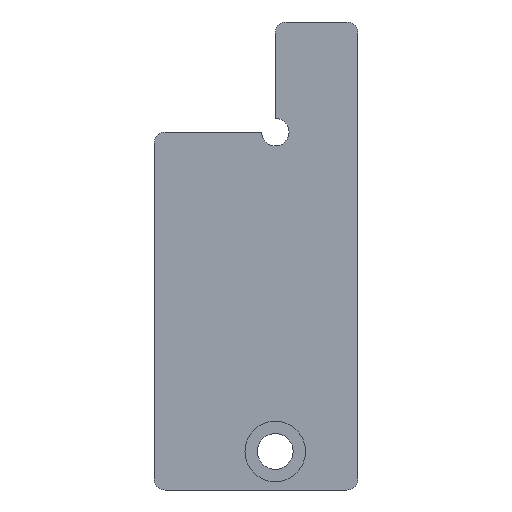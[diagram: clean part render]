
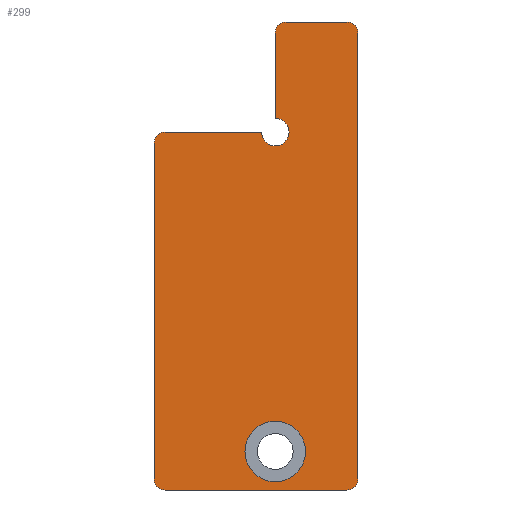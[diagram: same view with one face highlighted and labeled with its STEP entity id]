
A CAD part, front view. The second image highlights one B-rep face of the part: STEP entity #299.
In plain terms, the highlighted planar face has unit normal (0, -1, 0).
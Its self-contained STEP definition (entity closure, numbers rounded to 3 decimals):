
#19=LINE('',#486,#45);
#22=LINE('',#492,#48);
#23=LINE('',#496,#49);
#24=LINE('',#500,#50);
#25=LINE('',#504,#51);
#26=LINE('',#508,#52);
#45=VECTOR('',#395,10.);
#48=VECTOR('',#400,10.);
#49=VECTOR('',#403,10.);
#50=VECTOR('',#406,10.);
#51=VECTOR('',#409,10.);
#52=VECTOR('',#412,10.);
#76=FACE_BOUND('',#102,.T.);
#83=FACE_OUTER_BOUND('',#101,.T.);
#101=EDGE_LOOP('',(#219,#220,#221,#222,#223,#224,#225,#226,#227,#228,#229,
#230));
#102=EDGE_LOOP('',(#231));
#117=CIRCLE('',#338,5.5);
#120=CIRCLE('',#343,2.);
#121=CIRCLE('',#346,2.);
#122=CIRCLE('',#347,2.5);
#123=CIRCLE('',#348,2.);
#124=CIRCLE('',#349,2.);
#125=CIRCLE('',#350,2.);
#133=VERTEX_POINT('',#468);
#137=VERTEX_POINT('',#479);
#138=VERTEX_POINT('',#481);
#139=VERTEX_POINT('',#485);
#141=VERTEX_POINT('',#491);
#142=VERTEX_POINT('',#493);
#143=VERTEX_POINT('',#495);
#144=VERTEX_POINT('',#497);
#145=VERTEX_POINT('',#499);
#146=VERTEX_POINT('',#501);
#147=VERTEX_POINT('',#503);
#148=VERTEX_POINT('',#505);
#149=VERTEX_POINT('',#507);
#161=EDGE_CURVE('',#133,#133,#117,.T.);
#167=EDGE_CURVE('',#137,#138,#120,.T.);
#169=EDGE_CURVE('',#138,#139,#19,.T.);
#172=EDGE_CURVE('',#141,#137,#22,.T.);
#173=EDGE_CURVE('',#142,#141,#121,.T.);
#174=EDGE_CURVE('',#143,#142,#23,.T.);
#175=EDGE_CURVE('',#144,#143,#122,.T.);
#176=EDGE_CURVE('',#145,#144,#24,.T.);
#177=EDGE_CURVE('',#146,#145,#123,.T.);
#178=EDGE_CURVE('',#147,#146,#25,.T.);
#179=EDGE_CURVE('',#148,#147,#124,.T.);
#180=EDGE_CURVE('',#149,#148,#26,.T.);
#181=EDGE_CURVE('',#139,#149,#125,.T.);
#219=ORIENTED_EDGE('',*,*,#167,.F.);
#220=ORIENTED_EDGE('',*,*,#172,.F.);
#221=ORIENTED_EDGE('',*,*,#173,.F.);
#222=ORIENTED_EDGE('',*,*,#174,.F.);
#223=ORIENTED_EDGE('',*,*,#175,.F.);
#224=ORIENTED_EDGE('',*,*,#176,.F.);
#225=ORIENTED_EDGE('',*,*,#177,.F.);
#226=ORIENTED_EDGE('',*,*,#178,.F.);
#227=ORIENTED_EDGE('',*,*,#179,.F.);
#228=ORIENTED_EDGE('',*,*,#180,.F.);
#229=ORIENTED_EDGE('',*,*,#181,.F.);
#230=ORIENTED_EDGE('',*,*,#169,.F.);
#231=ORIENTED_EDGE('',*,*,#161,.T.);
#287=PLANE('',#345);
#299=ADVANCED_FACE('',(#83,#76),#287,.F.);
#338=AXIS2_PLACEMENT_3D('',#469,#377,#378);
#343=AXIS2_PLACEMENT_3D('',#482,#390,#391);
#345=AXIS2_PLACEMENT_3D('',#490,#398,#399);
#346=AXIS2_PLACEMENT_3D('',#494,#401,#402);
#347=AXIS2_PLACEMENT_3D('',#498,#404,#405);
#348=AXIS2_PLACEMENT_3D('',#502,#407,#408);
#349=AXIS2_PLACEMENT_3D('',#506,#410,#411);
#350=AXIS2_PLACEMENT_3D('',#509,#413,#414);
#377=DIRECTION('center_axis',(0.,1.,0.));
#378=DIRECTION('ref_axis',(1.,0.,0.));
#390=DIRECTION('center_axis',(0.,1.,0.));
#391=DIRECTION('ref_axis',(0.707,0.,0.707));
#395=DIRECTION('',(0.,0.,-1.));
#398=DIRECTION('center_axis',(0.,1.,0.));
#399=DIRECTION('ref_axis',(0.,0.,1.));
#400=DIRECTION('',(1.,0.,0.));
#401=DIRECTION('center_axis',(0.,1.,0.));
#402=DIRECTION('ref_axis',(-0.707,0.,0.707));
#403=DIRECTION('',(0.,0.,1.));
#404=DIRECTION('center_axis',(0.,-1.,0.));
#405=DIRECTION('ref_axis',(1.,0.,0.));
#406=DIRECTION('',(1.,0.,0.));
#407=DIRECTION('center_axis',(0.,1.,0.));
#408=DIRECTION('ref_axis',(-0.707,0.,0.707));
#409=DIRECTION('',(0.,0.,1.));
#410=DIRECTION('center_axis',(0.,1.,0.));
#411=DIRECTION('ref_axis',(-0.707,0.,-0.707));
#412=DIRECTION('',(-1.,0.,0.));
#413=DIRECTION('center_axis',(0.,1.,0.));
#414=DIRECTION('ref_axis',(0.707,0.,-0.707));
#468=CARTESIAN_POINT('',(16.5,0.,-78.));
#469=CARTESIAN_POINT('Origin',(22.,0.,-78.));
#479=CARTESIAN_POINT('',(35.,0.,0.));
#481=CARTESIAN_POINT('',(37.,0.,-2.));
#482=CARTESIAN_POINT('Origin',(35.,0.,-2.));
#485=CARTESIAN_POINT('',(37.,0.,-83.));
#486=CARTESIAN_POINT('',(37.,0.,0.));
#490=CARTESIAN_POINT('Origin',(18.5,0.,-42.5));
#491=CARTESIAN_POINT('',(24.,0.,0.));
#492=CARTESIAN_POINT('',(0.,0.,0.));
#493=CARTESIAN_POINT('',(22.,0.,-2.));
#494=CARTESIAN_POINT('Origin',(24.,0.,-2.));
#495=CARTESIAN_POINT('',(22.,0.,-17.5));
#496=CARTESIAN_POINT('',(22.,0.,-20.));
#497=CARTESIAN_POINT('',(19.5,0.,-20.));
#498=CARTESIAN_POINT('Origin',(22.,0.,-20.));
#499=CARTESIAN_POINT('',(2.,0.,-20.));
#500=CARTESIAN_POINT('',(0.,0.,-20.));
#501=CARTESIAN_POINT('',(0.,0.,-22.));
#502=CARTESIAN_POINT('Origin',(2.,0.,-22.));
#503=CARTESIAN_POINT('',(0.,0.,-83.));
#504=CARTESIAN_POINT('',(0.,0.,-85.));
#505=CARTESIAN_POINT('',(2.,0.,-85.));
#506=CARTESIAN_POINT('Origin',(2.,0.,-83.));
#507=CARTESIAN_POINT('',(35.,0.,-85.));
#508=CARTESIAN_POINT('',(37.,0.,-85.));
#509=CARTESIAN_POINT('Origin',(35.,0.,-83.));
